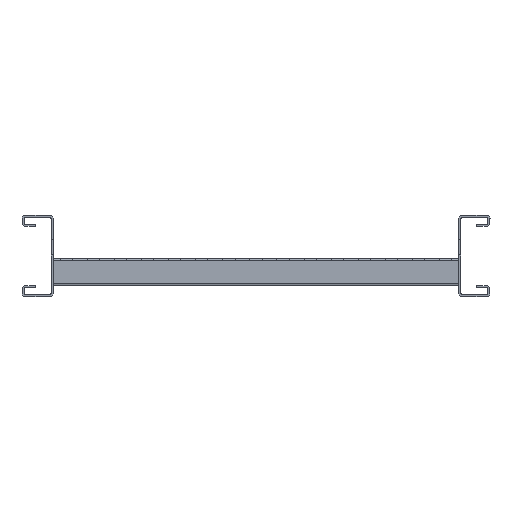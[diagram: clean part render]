
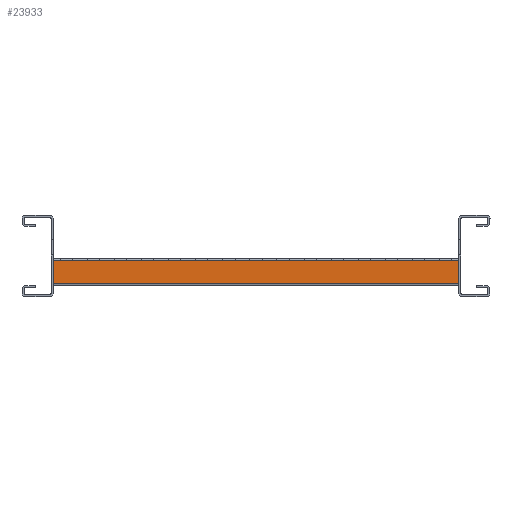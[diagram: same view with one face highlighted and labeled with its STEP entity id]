
A CAD part, left-side view. The second image highlights one B-rep face of the part: STEP entity #23933.
In plain terms, the highlighted planar face has unit normal (-1, 0, 0) as drawn and (0, 1, 0) by its records, which use the part's own axes.
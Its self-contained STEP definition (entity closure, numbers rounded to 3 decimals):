
#1739=FACE_OUTER_BOUND('',#3347,.T.);
#3347=EDGE_LOOP('',(#21600,#21601,#21602,#21603));
#6537=LINE('',#36934,#9697);
#6543=LINE('',#36951,#9703);
#6624=LINE('',#37236,#9784);
#6625=LINE('',#37238,#9785);
#9697=VECTOR('',#30376,304.8);
#9703=VECTOR('',#30388,304.8);
#9784=VECTOR('',#30617,304.8);
#9785=VECTOR('',#30620,304.8);
#11892=VERTEX_POINT('',#36931);
#11893=VERTEX_POINT('',#36933);
#11900=VERTEX_POINT('',#36948);
#11901=VERTEX_POINT('',#36950);
#15092=EDGE_CURVE('',#11892,#11893,#6537,.T.);
#15100=EDGE_CURVE('',#11900,#11901,#6543,.T.);
#15244=EDGE_CURVE('',#11901,#11892,#6624,.T.);
#15245=EDGE_CURVE('',#11900,#11893,#6625,.T.);
#21600=ORIENTED_EDGE('',*,*,#15092,.F.);
#21601=ORIENTED_EDGE('',*,*,#15244,.F.);
#21602=ORIENTED_EDGE('',*,*,#15100,.F.);
#21603=ORIENTED_EDGE('',*,*,#15245,.T.);
#22866=PLANE('',#25154);
#23933=ADVANCED_FACE('',(#1739),#22866,.T.);
#25154=AXIS2_PLACEMENT_3D('',#37237,#30618,#30619);
#30376=DIRECTION('',(0.,0.,-1.));
#30388=DIRECTION('',(0.,0.,1.));
#30617=DIRECTION('',(-1.,0.,0.));
#30618=DIRECTION('center_axis',(0.,1.,0.));
#30619=DIRECTION('ref_axis',(1.,0.,0.));
#30620=DIRECTION('',(-1.,0.,0.));
#36931=CARTESIAN_POINT('',(0.,20.,8.5));
#36933=CARTESIAN_POINT('',(0.,20.,-8.5));
#36934=CARTESIAN_POINT('',(0.,20.,8.5));
#36948=CARTESIAN_POINT('',(300.,20.,-8.5));
#36950=CARTESIAN_POINT('',(300.,20.,8.5));
#36951=CARTESIAN_POINT('',(300.,20.,-8.5));
#37236=CARTESIAN_POINT('',(0.,20.,8.5));
#37237=CARTESIAN_POINT('Origin',(0.,20.,8.5));
#37238=CARTESIAN_POINT('',(0.,20.,-8.5));
